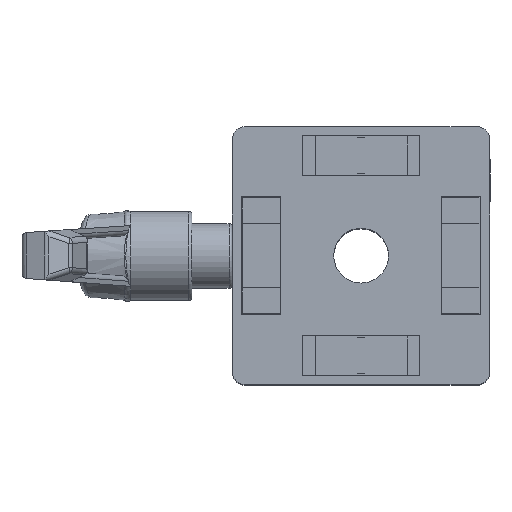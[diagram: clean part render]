
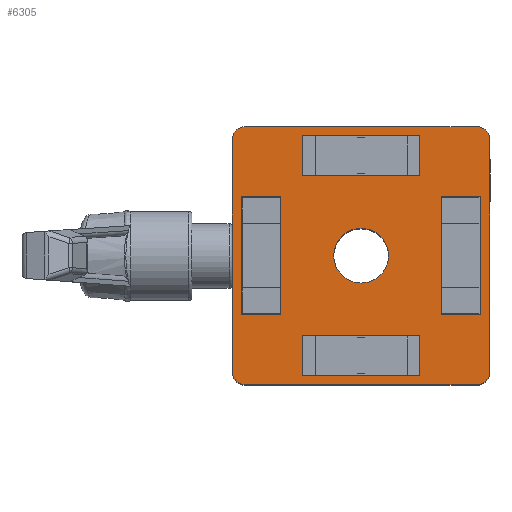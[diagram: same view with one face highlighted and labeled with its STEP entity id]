
A CAD part, top view. The second image highlights one B-rep face of the part: STEP entity #6305.
In plain terms, the highlighted planar face has unit normal (0, 0, 1) as drawn and (0, 0, -1) by its records, which use the part's own axes.
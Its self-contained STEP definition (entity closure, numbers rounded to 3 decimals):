
#264=FACE_BOUND('',#999,.T.);
#265=FACE_BOUND('',#1000,.T.);
#266=FACE_BOUND('',#1001,.T.);
#267=FACE_BOUND('',#1002,.T.);
#268=FACE_BOUND('',#1003,.T.);
#361=CIRCLE('',#6819,2.);
#362=CIRCLE('',#6820,2.);
#363=CIRCLE('',#6821,2.);
#364=CIRCLE('',#6822,2.);
#365=CIRCLE('',#6823,4.25);
#630=FACE_OUTER_BOUND('',#998,.T.);
#998=EDGE_LOOP('',(#4611,#4612,#4613,#4614,#4615,#4616,#4617,#4618));
#999=EDGE_LOOP('',(#4619));
#1000=EDGE_LOOP('',(#4620,#4621,#4622,#4623));
#1001=EDGE_LOOP('',(#4624,#4625,#4626,#4627));
#1002=EDGE_LOOP('',(#4628,#4629,#4630,#4631));
#1003=EDGE_LOOP('',(#4632,#4633,#4634,#4635));
#1377=LINE('',#9276,#2026);
#1397=LINE('',#9317,#2046);
#1417=LINE('',#9358,#2066);
#1437=LINE('',#9399,#2086);
#1508=LINE('',#9541,#2157);
#1510=LINE('',#9545,#2159);
#1518=LINE('',#9561,#2167);
#1520=LINE('',#9565,#2169);
#1525=LINE('',#9575,#2174);
#1527=LINE('',#9579,#2176);
#1538=LINE('',#9601,#2187);
#1540=LINE('',#9605,#2189);
#1546=LINE('',#9620,#2195);
#1547=LINE('',#9624,#2196);
#1548=LINE('',#9628,#2197);
#1549=LINE('',#9631,#2198);
#1550=LINE('',#9634,#2199);
#1551=LINE('',#9635,#2200);
#1552=LINE('',#9636,#2201);
#1553=LINE('',#9637,#2202);
#2026=VECTOR('',#7461,10.);
#2046=VECTOR('',#7491,10.);
#2066=VECTOR('',#7521,10.);
#2086=VECTOR('',#7551,10.);
#2157=VECTOR('',#7668,10.);
#2159=VECTOR('',#7672,10.);
#2167=VECTOR('',#7686,10.);
#2169=VECTOR('',#7690,10.);
#2174=VECTOR('',#7699,10.);
#2176=VECTOR('',#7703,10.);
#2187=VECTOR('',#7722,10.);
#2189=VECTOR('',#7726,10.);
#2195=VECTOR('',#7744,10.);
#2196=VECTOR('',#7747,10.);
#2197=VECTOR('',#7750,10.);
#2198=VECTOR('',#7753,10.);
#2199=VECTOR('',#7756,10.);
#2200=VECTOR('',#7757,10.);
#2201=VECTOR('',#7758,10.);
#2202=VECTOR('',#7759,10.);
#2671=VERTEX_POINT('',#9273);
#2672=VERTEX_POINT('',#9275);
#2687=VERTEX_POINT('',#9314);
#2688=VERTEX_POINT('',#9316);
#2703=VERTEX_POINT('',#9355);
#2704=VERTEX_POINT('',#9357);
#2719=VERTEX_POINT('',#9396);
#2720=VERTEX_POINT('',#9398);
#2768=VERTEX_POINT('',#9540);
#2769=VERTEX_POINT('',#9544);
#2774=VERTEX_POINT('',#9560);
#2775=VERTEX_POINT('',#9564);
#2778=VERTEX_POINT('',#9574);
#2779=VERTEX_POINT('',#9578);
#2786=VERTEX_POINT('',#9600);
#2787=VERTEX_POINT('',#9604);
#2788=VERTEX_POINT('',#9616);
#2789=VERTEX_POINT('',#9617);
#2790=VERTEX_POINT('',#9619);
#2791=VERTEX_POINT('',#9621);
#2792=VERTEX_POINT('',#9623);
#2793=VERTEX_POINT('',#9625);
#2794=VERTEX_POINT('',#9627);
#2795=VERTEX_POINT('',#9629);
#2796=VERTEX_POINT('',#9632);
#3306=EDGE_CURVE('',#2672,#2671,#1377,.T.);
#3326=EDGE_CURVE('',#2688,#2687,#1397,.T.);
#3346=EDGE_CURVE('',#2704,#2703,#1417,.T.);
#3366=EDGE_CURVE('',#2720,#2719,#1437,.T.);
#3437=EDGE_CURVE('',#2703,#2768,#1508,.T.);
#3439=EDGE_CURVE('',#2769,#2704,#1510,.T.);
#3447=EDGE_CURVE('',#2687,#2774,#1518,.T.);
#3449=EDGE_CURVE('',#2775,#2688,#1520,.T.);
#3454=EDGE_CURVE('',#2778,#2672,#1525,.T.);
#3456=EDGE_CURVE('',#2671,#2779,#1527,.T.);
#3467=EDGE_CURVE('',#2719,#2786,#1538,.T.);
#3469=EDGE_CURVE('',#2787,#2720,#1540,.T.);
#3475=EDGE_CURVE('',#2788,#2789,#361,.T.);
#3476=EDGE_CURVE('',#2788,#2790,#1546,.T.);
#3477=EDGE_CURVE('',#2791,#2790,#362,.T.);
#3478=EDGE_CURVE('',#2791,#2792,#1547,.T.);
#3479=EDGE_CURVE('',#2793,#2792,#363,.T.);
#3480=EDGE_CURVE('',#2793,#2794,#1548,.T.);
#3481=EDGE_CURVE('',#2795,#2794,#364,.T.);
#3482=EDGE_CURVE('',#2795,#2789,#1549,.T.);
#3483=EDGE_CURVE('',#2796,#2796,#365,.T.);
#3484=EDGE_CURVE('',#2786,#2787,#1550,.T.);
#3485=EDGE_CURVE('',#2779,#2778,#1551,.T.);
#3486=EDGE_CURVE('',#2774,#2775,#1552,.T.);
#3487=EDGE_CURVE('',#2768,#2769,#1553,.T.);
#4611=ORIENTED_EDGE('',*,*,#3475,.F.);
#4612=ORIENTED_EDGE('',*,*,#3476,.T.);
#4613=ORIENTED_EDGE('',*,*,#3477,.F.);
#4614=ORIENTED_EDGE('',*,*,#3478,.T.);
#4615=ORIENTED_EDGE('',*,*,#3479,.F.);
#4616=ORIENTED_EDGE('',*,*,#3480,.T.);
#4617=ORIENTED_EDGE('',*,*,#3481,.F.);
#4618=ORIENTED_EDGE('',*,*,#3482,.T.);
#4619=ORIENTED_EDGE('',*,*,#3483,.F.);
#4620=ORIENTED_EDGE('',*,*,#3484,.T.);
#4621=ORIENTED_EDGE('',*,*,#3469,.T.);
#4622=ORIENTED_EDGE('',*,*,#3366,.T.);
#4623=ORIENTED_EDGE('',*,*,#3467,.T.);
#4624=ORIENTED_EDGE('',*,*,#3306,.T.);
#4625=ORIENTED_EDGE('',*,*,#3456,.T.);
#4626=ORIENTED_EDGE('',*,*,#3485,.T.);
#4627=ORIENTED_EDGE('',*,*,#3454,.T.);
#4628=ORIENTED_EDGE('',*,*,#3486,.T.);
#4629=ORIENTED_EDGE('',*,*,#3449,.T.);
#4630=ORIENTED_EDGE('',*,*,#3326,.T.);
#4631=ORIENTED_EDGE('',*,*,#3447,.T.);
#4632=ORIENTED_EDGE('',*,*,#3487,.T.);
#4633=ORIENTED_EDGE('',*,*,#3439,.T.);
#4634=ORIENTED_EDGE('',*,*,#3346,.T.);
#4635=ORIENTED_EDGE('',*,*,#3437,.T.);
#6055=PLANE('',#6818);
#6305=ADVANCED_FACE('',(#630,#264,#265,#266,#267,#268),#6055,.F.);
#6818=AXIS2_PLACEMENT_3D('',#9615,#7740,#7741);
#6819=AXIS2_PLACEMENT_3D('',#9618,#7742,#7743);
#6820=AXIS2_PLACEMENT_3D('',#9622,#7745,#7746);
#6821=AXIS2_PLACEMENT_3D('',#9626,#7748,#7749);
#6822=AXIS2_PLACEMENT_3D('',#9630,#7751,#7752);
#6823=AXIS2_PLACEMENT_3D('',#9633,#7754,#7755);
#7461=DIRECTION('',(1.,0.,0.));
#7491=DIRECTION('',(-1.,0.,0.));
#7521=DIRECTION('',(0.,1.,0.));
#7551=DIRECTION('',(0.,-1.,0.));
#7668=DIRECTION('',(-1.,0.,0.));
#7672=DIRECTION('',(1.,0.,0.));
#7686=DIRECTION('',(0.,-1.,0.));
#7690=DIRECTION('',(0.,1.,0.));
#7699=DIRECTION('',(0.,-1.,0.));
#7703=DIRECTION('',(0.,1.,0.));
#7722=DIRECTION('',(1.,0.,0.));
#7726=DIRECTION('',(-1.,0.,0.));
#7740=DIRECTION('center_axis',(0.,0.,1.));
#7741=DIRECTION('ref_axis',(1.,0.,0.));
#7742=DIRECTION('center_axis',(0.,0.,1.));
#7743=DIRECTION('ref_axis',(-0.707,0.707,0.));
#7744=DIRECTION('',(1.,0.,0.));
#7745=DIRECTION('center_axis',(0.,0.,1.));
#7746=DIRECTION('ref_axis',(0.707,0.707,0.));
#7747=DIRECTION('',(0.,-1.,0.));
#7748=DIRECTION('center_axis',(0.,0.,1.));
#7749=DIRECTION('ref_axis',(0.707,-0.707,0.));
#7750=DIRECTION('',(-1.,0.,0.));
#7751=DIRECTION('center_axis',(0.,0.,1.));
#7752=DIRECTION('ref_axis',(-0.707,-0.707,0.));
#7753=DIRECTION('',(0.,1.,0.));
#7754=DIRECTION('center_axis',(0.,0.,-1.));
#7755=DIRECTION('ref_axis',(1.,0.,0.));
#7756=DIRECTION('',(0.,1.,0.));
#7757=DIRECTION('',(-1.,0.,0.));
#7758=DIRECTION('',(1.,0.,0.));
#7759=DIRECTION('',(0.,-1.,0.));
#9273=CARTESIAN_POINT('',(9.125,-18.6,0.));
#9275=CARTESIAN_POINT('',(-9.125,-18.6,0.));
#9276=CARTESIAN_POINT('',(-4.562,-18.6,0.));
#9314=CARTESIAN_POINT('',(-9.125,18.6,0.));
#9316=CARTESIAN_POINT('',(9.125,18.6,0.));
#9317=CARTESIAN_POINT('',(4.563,18.6,0.));
#9355=CARTESIAN_POINT('',(18.6,9.125,0.));
#9357=CARTESIAN_POINT('',(18.6,-9.125,0.));
#9358=CARTESIAN_POINT('',(18.6,-4.562,0.));
#9396=CARTESIAN_POINT('',(-18.6,-9.125,0.));
#9398=CARTESIAN_POINT('',(-18.6,9.125,0.));
#9399=CARTESIAN_POINT('',(-18.6,4.563,0.));
#9540=CARTESIAN_POINT('',(12.45,9.125,0.));
#9541=CARTESIAN_POINT('',(9.3,9.125,0.));
#9544=CARTESIAN_POINT('',(12.45,-9.125,0.));
#9545=CARTESIAN_POINT('',(6.225,-9.125,0.));
#9560=CARTESIAN_POINT('',(-9.125,12.45,0.));
#9561=CARTESIAN_POINT('',(-9.125,9.3,0.));
#9564=CARTESIAN_POINT('',(9.125,12.45,0.));
#9565=CARTESIAN_POINT('',(9.125,6.225,0.));
#9574=CARTESIAN_POINT('',(-9.125,-12.45,0.));
#9575=CARTESIAN_POINT('',(-9.125,-6.225,0.));
#9578=CARTESIAN_POINT('',(9.125,-12.45,0.));
#9579=CARTESIAN_POINT('',(9.125,-9.3,0.));
#9600=CARTESIAN_POINT('',(-12.45,-9.125,0.));
#9601=CARTESIAN_POINT('',(-9.3,-9.125,0.));
#9604=CARTESIAN_POINT('',(-12.45,9.125,0.));
#9605=CARTESIAN_POINT('',(-6.225,9.125,0.));
#9615=CARTESIAN_POINT('Origin',(0.,0.,
0.));
#9616=CARTESIAN_POINT('',(-18.,20.,0.));
#9617=CARTESIAN_POINT('',(-20.,18.,0.));
#9618=CARTESIAN_POINT('Origin',(-18.,18.,0.));
#9619=CARTESIAN_POINT('',(18.,20.,0.));
#9620=CARTESIAN_POINT('',(-20.,20.,0.));
#9621=CARTESIAN_POINT('',(20.,18.,0.));
#9622=CARTESIAN_POINT('Origin',(18.,18.,0.));
#9623=CARTESIAN_POINT('',(20.,-18.,0.));
#9624=CARTESIAN_POINT('',(20.,20.,0.));
#9625=CARTESIAN_POINT('',(18.,-20.,0.));
#9626=CARTESIAN_POINT('Origin',(18.,-18.,0.));
#9627=CARTESIAN_POINT('',(-18.,-20.,0.));
#9628=CARTESIAN_POINT('',(20.,-20.,0.));
#9629=CARTESIAN_POINT('',(-20.,-18.,0.));
#9630=CARTESIAN_POINT('Origin',(-18.,-18.,0.));
#9631=CARTESIAN_POINT('',(-20.,-20.,0.));
#9632=CARTESIAN_POINT('',(-4.25,0.,0.));
#9633=CARTESIAN_POINT('Origin',(0.,0.,0.));
#9634=CARTESIAN_POINT('',(-12.45,-4.562,0.));
#9635=CARTESIAN_POINT('',(4.563,-12.45,0.));
#9636=CARTESIAN_POINT('',(-4.562,12.45,0.));
#9637=CARTESIAN_POINT('',(12.45,4.563,0.));
